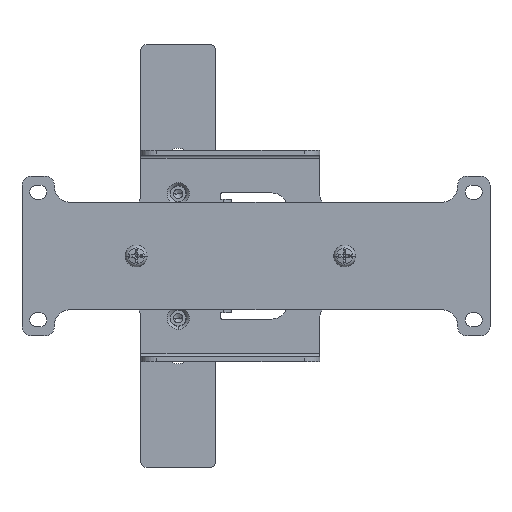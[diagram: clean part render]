
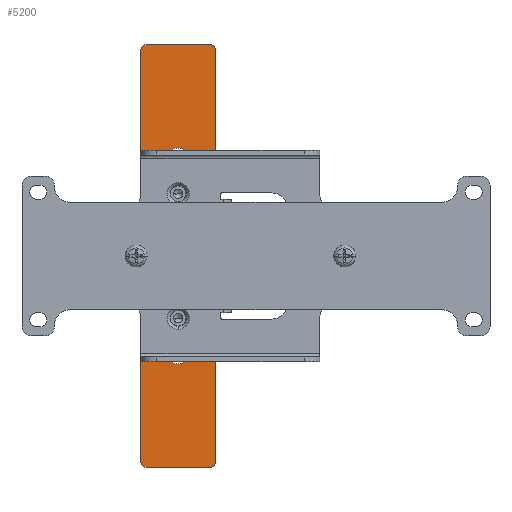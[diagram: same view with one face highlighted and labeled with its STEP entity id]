
A CAD part, front view. The second image highlights one B-rep face of the part: STEP entity #5200.
In plain terms, the highlighted planar face has unit normal (0, -1, 0).
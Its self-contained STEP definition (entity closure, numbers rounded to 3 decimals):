
#4589=DIRECTION('',(0.,0.,-1.));
#4590=VECTOR('',#4589,22.);
#4591=CARTESIAN_POINT('',(-3.7,0.,-9.));
#4592=LINE('',#4591,#4590);
#4593=CARTESIAN_POINT('',(0.,0.,-31.));
#4594=DIRECTION('',(0.,-1.,0.));
#4595=DIRECTION('',(-1.,0.,0.));
#4596=AXIS2_PLACEMENT_3D('',#4593,#4594,#4595);
#4598=DIRECTION('',(0.,0.,1.));
#4599=VECTOR('',#4598,22.);
#4600=CARTESIAN_POINT('',(3.7,0.,-31.));
#4601=LINE('',#4600,#4599);
#4602=CARTESIAN_POINT('',(0.,0.,-9.));
#4603=DIRECTION('',(0.,-1.,0.));
#4604=DIRECTION('',(1.,0.,0.));
#4605=AXIS2_PLACEMENT_3D('',#4602,#4603,#4604);
#4607=DIRECTION('',(0.,0.,-1.));
#4608=VECTOR('',#4607,22.);
#4609=CARTESIAN_POINT('',(-3.7,0.,31.));
#4610=LINE('',#4609,#4608);
#4611=CARTESIAN_POINT('',(0.,0.,9.));
#4612=DIRECTION('',(0.,-1.,0.));
#4613=DIRECTION('',(-1.,0.,0.));
#4614=AXIS2_PLACEMENT_3D('',#4611,#4612,#4613);
#4616=DIRECTION('',(0.,0.,1.));
#4617=VECTOR('',#4616,22.);
#4618=CARTESIAN_POINT('',(3.7,0.,9.));
#4619=LINE('',#4618,#4617);
#4620=CARTESIAN_POINT('',(0.,0.,31.));
#4621=DIRECTION('',(0.,-1.,0.));
#4622=DIRECTION('',(1.,0.,0.));
#4623=AXIS2_PLACEMENT_3D('',#4620,#4621,#4622);
#4625=DIRECTION('',(0.,0.,-1.));
#4626=VECTOR('',#4625,36.5);
#4627=CARTESIAN_POINT('',(12.5,0.,18.25));
#4628=LINE('',#4627,#4626);
#4629=DIRECTION('',(0.,0.,-1.));
#4630=VECTOR('',#4629,47.25);
#4631=CARTESIAN_POINT('',(12.,0.,-18.75));
#4632=LINE('',#4631,#4630);
#4633=CARTESIAN_POINT('',(10.,0.,-66.));
#4634=DIRECTION('',(0.,-1.,0.));
#4635=DIRECTION('',(0.,0.,-1.));
#4636=AXIS2_PLACEMENT_3D('',#4633,#4634,#4635);
#4638=DIRECTION('',(-1.,0.,0.));
#4639=VECTOR('',#4638,20.);
#4640=CARTESIAN_POINT('',(10.,0.,-68.));
#4641=LINE('',#4640,#4639);
#4642=CARTESIAN_POINT('',(-10.,0.,-66.));
#4643=DIRECTION('',(0.,-1.,0.));
#4644=DIRECTION('',(-1.,0.,0.));
#4645=AXIS2_PLACEMENT_3D('',#4642,#4643,#4644);
#4647=DIRECTION('',(0.,0.,1.));
#4648=VECTOR('',#4647,132.);
#4649=CARTESIAN_POINT('',(-12.,0.,-66.));
#4650=LINE('',#4649,#4648);
#4651=CARTESIAN_POINT('',(-10.,0.,66.));
#4652=DIRECTION('',(0.,-1.,0.));
#4653=DIRECTION('',(0.,0.,1.));
#4654=AXIS2_PLACEMENT_3D('',#4651,#4652,#4653);
#4656=DIRECTION('',(1.,0.,0.));
#4657=VECTOR('',#4656,20.);
#4658=CARTESIAN_POINT('',(-10.,0.,68.));
#4659=LINE('',#4658,#4657);
#4660=CARTESIAN_POINT('',(10.,0.,66.));
#4661=DIRECTION('',(0.,-1.,0.));
#4662=DIRECTION('',(1.,0.,0.));
#4663=AXIS2_PLACEMENT_3D('',#4660,#4661,#4662);
#4665=DIRECTION('',(0.,0.,-1.));
#4666=VECTOR('',#4665,47.25);
#4667=CARTESIAN_POINT('',(12.,0.,66.));
#4668=LINE('',#4667,#4666);
#4797=CARTESIAN_POINT('',(12.5,0.,18.75));
#4798=DIRECTION('',(0.,1.,0.));
#4799=DIRECTION('',(0.,0.,-1.));
#4800=AXIS2_PLACEMENT_3D('',#4797,#4798,#4799);
#4987=CARTESIAN_POINT('',(12.5,0.,-18.75));
#4988=DIRECTION('',(0.,1.,0.));
#4989=DIRECTION('',(-1.,0.,0.));
#4990=AXIS2_PLACEMENT_3D('',#4987,#4988,#4989);
#5021=CARTESIAN_POINT('',(12.,0.,66.));
#5022=CARTESIAN_POINT('',(10.,0.,68.));
#5023=VERTEX_POINT('',#5021);
#5024=VERTEX_POINT('',#5022);
#5029=CARTESIAN_POINT('',(-10.,0.,68.));
#5030=CARTESIAN_POINT('',(-12.,0.,66.));
#5031=VERTEX_POINT('',#5029);
#5032=VERTEX_POINT('',#5030);
#5037=CARTESIAN_POINT('',(-12.,0.,-66.));
#5038=CARTESIAN_POINT('',(-10.,0.,-68.));
#5039=VERTEX_POINT('',#5037);
#5040=VERTEX_POINT('',#5038);
#5045=CARTESIAN_POINT('',(10.,0.,-68.));
#5046=CARTESIAN_POINT('',(12.,0.,-66.));
#5047=VERTEX_POINT('',#5045);
#5048=VERTEX_POINT('',#5046);
#5077=CARTESIAN_POINT('',(-3.7,0.,-9.));
#5078=CARTESIAN_POINT('',(-3.7,0.,-31.));
#5079=VERTEX_POINT('',#5077);
#5080=VERTEX_POINT('',#5078);
#5081=CARTESIAN_POINT('',(3.7,0.,-31.));
#5082=VERTEX_POINT('',#5081);
#5083=CARTESIAN_POINT('',(3.7,0.,-9.));
#5084=VERTEX_POINT('',#5083);
#5085=CARTESIAN_POINT('',(-3.7,0.,31.));
#5086=CARTESIAN_POINT('',(-3.7,0.,9.));
#5087=VERTEX_POINT('',#5085);
#5088=VERTEX_POINT('',#5086);
#5089=CARTESIAN_POINT('',(3.7,0.,9.));
#5090=VERTEX_POINT('',#5089);
#5091=CARTESIAN_POINT('',(3.7,0.,31.));
#5092=VERTEX_POINT('',#5091);
#5122=CARTESIAN_POINT('',(12.5,0.,-18.25));
#5124=VERTEX_POINT('',#5122);
#5125=CARTESIAN_POINT('',(12.5,0.,18.25));
#5126=VERTEX_POINT('',#5125);
#5145=CARTESIAN_POINT('',(12.,0.,18.75));
#5146=VERTEX_POINT('',#5145);
#5147=CARTESIAN_POINT('',(12.,0.,-18.75));
#5148=VERTEX_POINT('',#5147);
#5149=CARTESIAN_POINT('',(0.,0.,0.));
#5150=DIRECTION('',(0.,1.,0.));
#5151=DIRECTION('',(0.,0.,-1.));
#5152=AXIS2_PLACEMENT_3D('',#5149,#5150,#5151);
#5153=PLANE('',#5152);
#5155=ORIENTED_EDGE('',*,*,#5154,.T.);
#5157=ORIENTED_EDGE('',*,*,#5156,.F.);
#5159=ORIENTED_EDGE('',*,*,#5158,.T.);
#5161=ORIENTED_EDGE('',*,*,#5160,.F.);
#5163=ORIENTED_EDGE('',*,*,#5162,.T.);
#5165=ORIENTED_EDGE('',*,*,#5164,.F.);
#5167=ORIENTED_EDGE('',*,*,#5166,.T.);
#5169=ORIENTED_EDGE('',*,*,#5168,.F.);
#5171=ORIENTED_EDGE('',*,*,#5170,.T.);
#5173=ORIENTED_EDGE('',*,*,#5172,.F.);
#5175=ORIENTED_EDGE('',*,*,#5174,.T.);
#5177=ORIENTED_EDGE('',*,*,#5176,.F.);
#5178=EDGE_LOOP('',(#5155,#5157,#5159,#5161,#5163,#5165,#5167,#5169,#5171,#5173,
#5175,#5177));
#5179=FACE_OUTER_BOUND('',#5178,.F.);
#5181=ORIENTED_EDGE('',*,*,#5180,.T.);
#5183=ORIENTED_EDGE('',*,*,#5182,.T.);
#5185=ORIENTED_EDGE('',*,*,#5184,.T.);
#5187=ORIENTED_EDGE('',*,*,#5186,.T.);
#5188=EDGE_LOOP('',(#5181,#5183,#5185,#5187));
#5189=FACE_BOUND('',#5188,.F.);
#5191=ORIENTED_EDGE('',*,*,#5190,.T.);
#5193=ORIENTED_EDGE('',*,*,#5192,.T.);
#5195=ORIENTED_EDGE('',*,*,#5194,.T.);
#5197=ORIENTED_EDGE('',*,*,#5196,.T.);
#5198=EDGE_LOOP('',(#5191,#5193,#5195,#5197));
#5199=FACE_BOUND('',#5198,.F.);
#5200=ADVANCED_FACE('',(#5179,#5189,#5199),#5153,.F.);
#4597=CIRCLE('',#4596,3.7);
#4606=CIRCLE('',#4605,3.7);
#4615=CIRCLE('',#4614,3.7);
#4624=CIRCLE('',#4623,3.7);
#4637=CIRCLE('',#4636,2.);
#4646=CIRCLE('',#4645,2.);
#4655=CIRCLE('',#4654,2.);
#4664=CIRCLE('',#4663,2.);
#4801=CIRCLE('',#4800,0.5);
#4991=CIRCLE('',#4990,0.5);
#5154=EDGE_CURVE('',#5126,#5124,#4628,.T.);
#5156=EDGE_CURVE('',#5148,#5124,#4991,.T.);
#5158=EDGE_CURVE('',#5148,#5048,#4632,.T.);
#5160=EDGE_CURVE('',#5047,#5048,#4637,.T.);
#5162=EDGE_CURVE('',#5047,#5040,#4641,.T.);
#5164=EDGE_CURVE('',#5039,#5040,#4646,.T.);
#5166=EDGE_CURVE('',#5039,#5032,#4650,.T.);
#5168=EDGE_CURVE('',#5031,#5032,#4655,.T.);
#5170=EDGE_CURVE('',#5031,#5024,#4659,.T.);
#5172=EDGE_CURVE('',#5023,#5024,#4664,.T.);
#5174=EDGE_CURVE('',#5023,#5146,#4668,.T.);
#5176=EDGE_CURVE('',#5126,#5146,#4801,.T.);
#5180=EDGE_CURVE('',#5079,#5080,#4592,.T.);
#5182=EDGE_CURVE('',#5080,#5082,#4597,.T.);
#5184=EDGE_CURVE('',#5082,#5084,#4601,.T.);
#5186=EDGE_CURVE('',#5084,#5079,#4606,.T.);
#5190=EDGE_CURVE('',#5087,#5088,#4610,.T.);
#5192=EDGE_CURVE('',#5088,#5090,#4615,.T.);
#5194=EDGE_CURVE('',#5090,#5092,#4619,.T.);
#5196=EDGE_CURVE('',#5092,#5087,#4624,.T.);
